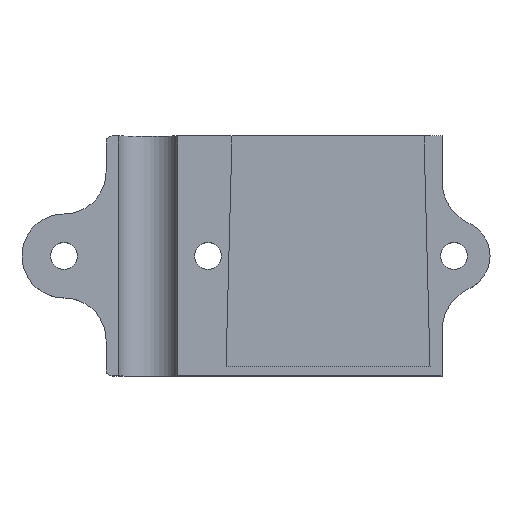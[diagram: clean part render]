
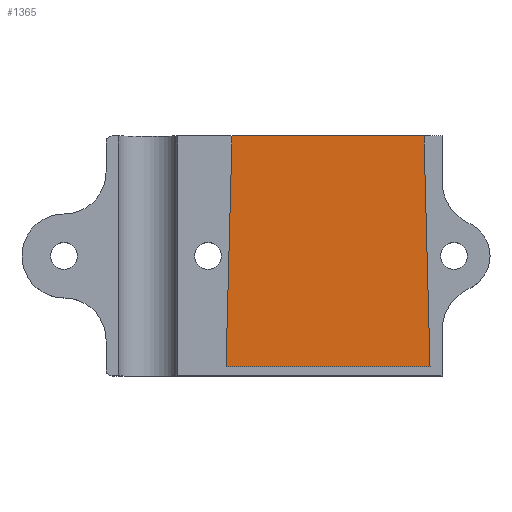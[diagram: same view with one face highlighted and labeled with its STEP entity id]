
A CAD part, top view. The second image highlights one B-rep face of the part: STEP entity #1365.
In plain terms, the highlighted planar face has unit normal (0, 0, 1).
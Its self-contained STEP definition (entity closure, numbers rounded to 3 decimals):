
#746=CARTESIAN_POINT('',(4.,20.,5.8));
#747=VERTEX_POINT('',#746);
#754=CARTESIAN_POINT('',(36.0,20.,5.8));
#755=VERTEX_POINT('',#754);
#756=CARTESIAN_POINT('',(4.,20.,5.8));
#757=DIRECTION('',(1.0,0.0,0.0));
#758=VECTOR('',#757,32.);
#759=LINE('',#756,#758);
#760=EDGE_CURVE('',#747,#755,#759,.T.);
#1295=CARTESIAN_POINT('',(3.,-18.5,5.8));
#1296=VERTEX_POINT('',#1295);
#1303=CARTESIAN_POINT('',(3.,-18.5,5.8));
#1304=DIRECTION('',(0.026,1.,0.0));
#1305=VECTOR('',#1304,38.513);
#1306=LINE('',#1303,#1305);
#1307=EDGE_CURVE('',#1296,#747,#1306,.T.);
#1319=CARTESIAN_POINT('',(37.0,-18.5,5.8));
#1320=VERTEX_POINT('',#1319);
#1327=CARTESIAN_POINT('',(37.0,-18.5,5.8));
#1328=DIRECTION('',(-1.0,0.0,0.0));
#1329=VECTOR('',#1328,34.0);
#1330=LINE('',#1327,#1329);
#1331=EDGE_CURVE('',#1320,#1296,#1330,.T.);
#1344=CARTESIAN_POINT('',(36.0,20.0,5.8));
#1345=DIRECTION('',(0.026,-1.,0.0));
#1346=VECTOR('',#1345,38.513);
#1347=LINE('',#1344,#1346);
#1348=EDGE_CURVE('',#755,#1320,#1347,.T.);
#1354=CARTESIAN_POINT('',(20.,0.481,5.8));
#1355=DIRECTION('',(0.0,0.0,1.0));
#1356=DIRECTION('',(1.0,0.0,0.0));
#1357=AXIS2_PLACEMENT_3D('',#1354,#1355,#1356);
#1358=PLANE('',#1357);
#1359=ORIENTED_EDGE('',*,*,#1348,.F.);
#1360=ORIENTED_EDGE('',*,*,#760,.F.);
#1361=ORIENTED_EDGE('',*,*,#1307,.F.);
#1362=ORIENTED_EDGE('',*,*,#1331,.F.);
#1363=EDGE_LOOP('',(#1359,#1360,#1361,#1362));
#1364=FACE_OUTER_BOUND('',#1363,.T.);
#1365=ADVANCED_FACE('',(#1364),#1358,.T.);
